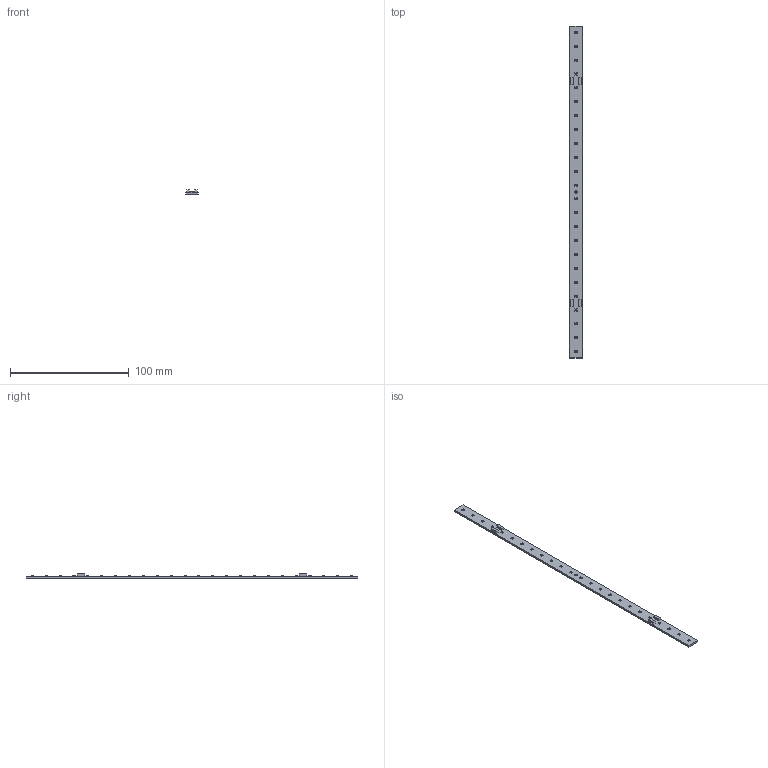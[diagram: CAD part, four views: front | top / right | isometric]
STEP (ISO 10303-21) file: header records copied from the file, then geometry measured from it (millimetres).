
FILE_DESCRIPTION(('CATIA V5 STEP Exchange','CAx-IF Rec.Pracs.--- Model Styling and Organization---1.4--- 2014-01-23','CAx-IF Rec.Pracs.---3D Tessellated Data Validation Properties---0.5---2014-09-14'),'2;1');
FILE_NAME('Z:\Project Documents\DALINE\DALINE-10\Catia-templates\DALINE_REFERENCE-PCB.stp','2024-05-10T07:17:52+00:00',('none'),('none'),'CATIA Version 5-6 Release 2018 SP4','CATIA V5 STEP AP242','none');
FILE_SCHEMA(('AP242_MANAGED_MODEL_BASED_3D_ENGINEERING_MIM_LF {1 0 10303 442 1 1 4}'));
Length unit declared in the file: millimetre
Products named in the file (1): PCB EXAMPLE
Bounding box: 10.5 x 279 x 3.6 mm (x, y, z)
Volume: 4798.6 mm3; surface area: 6967.3 mm2
Topology: 1 solids, 1 shells, 220 faces, 498 edges, 332 vertices
Faces by surface type: plane 170, cylinder 50
Entity records: 5907 total; most frequent: CARTESIAN_POINT 1308, ORIENTED_EDGE 996, DIRECTION 636, EDGE_CURVE 498, VECTOR 398, LINE 398, VERTEX_POINT 332, EDGE_LOOP 274
